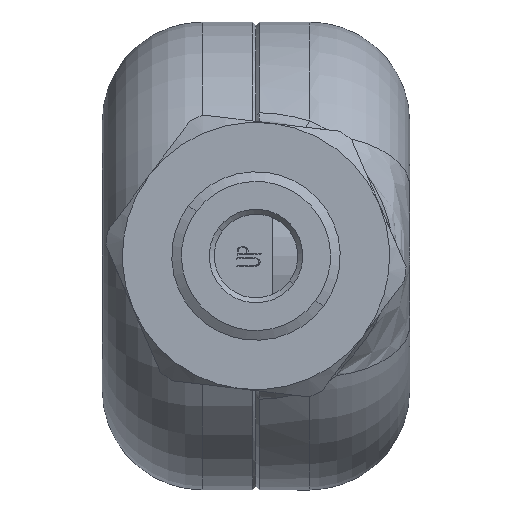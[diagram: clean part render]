
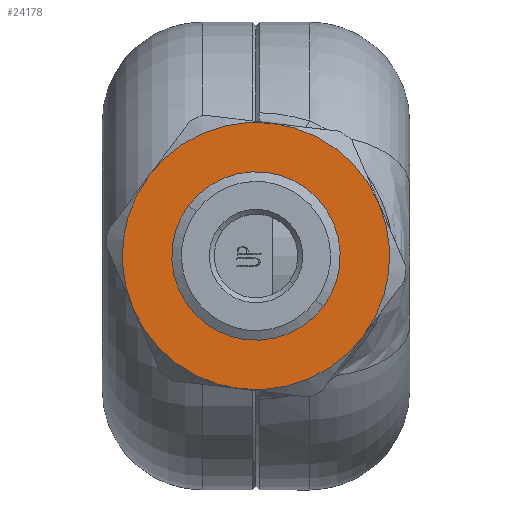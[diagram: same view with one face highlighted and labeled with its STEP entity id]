
A CAD part, front view. The second image highlights one B-rep face of the part: STEP entity #24178.
In plain terms, the highlighted planar face has unit normal (0, -1, 0).
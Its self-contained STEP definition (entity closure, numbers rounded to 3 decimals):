
#594 = AXIS2_PLACEMENT_3D ( 'NONE', #21130, #8941, #23932 ) ;
#1090 = DIRECTION ( 'NONE',  ( 0., -1., 0. ) ) ;
#1221 = DIRECTION ( 'NONE',  ( 0., 1., 0. ) ) ;
#1297 = ORIENTED_EDGE ( 'NONE', *, *, #38683, .T. ) ;
#2718 = DIRECTION ( 'NONE',  ( 0., 1., 0. ) ) ;
#2896 = CIRCLE ( 'NONE', #9921, 8. ) ;
#3176 = ORIENTED_EDGE ( 'NONE', *, *, #36868, .T. ) ;
#3190 = EDGE_CURVE ( 'NONE', #33217, #12029, #2896, .T. ) ;
#3834 = CARTESIAN_POINT ( 'NONE',  ( -16.45, -17.345, 42. ) ) ;
#4594 = EDGE_LOOP ( 'NONE', ( #36920, #24398, #33409, #1297, #24714, #10651 ) ) ;
#4896 = EDGE_CURVE ( 'NONE', #6019, #33217, #29945, .T. ) ;
#4927 = DIRECTION ( 'NONE',  ( 0., -1., 0. ) ) ;
#5756 = DIRECTION ( 'NONE',  ( 0., -1., 0. ) ) ;
#5987 = FACE_OUTER_BOUND ( 'NONE', #4594, .T. ) ;
#6019 = VERTEX_POINT ( 'NONE', #25096 ) ;
#7419 = CARTESIAN_POINT ( 'NONE',  ( -16.45, -17.345, 42. ) ) ;
#8941 = DIRECTION ( 'NONE',  ( 0., -1., 0. ) ) ;
#8952 = CIRCLE ( 'NONE', #15329, 8. ) ;
#8988 = CARTESIAN_POINT ( 'NONE',  ( -10.043, -17.345, 37.209 ) ) ;
#9132 = CARTESIAN_POINT ( 'NONE',  ( -16.45, -17.345, 42. ) ) ;
#9921 = AXIS2_PLACEMENT_3D ( 'NONE', #28665, #1090, #19873 ) ;
#10084 = CARTESIAN_POINT ( 'NONE',  ( -19.894, -17.345, 44.575 ) ) ;
#10651 = ORIENTED_EDGE ( 'NONE', *, *, #3190, .T. ) ;
#11791 = FACE_BOUND ( 'NONE', #28175, .T. ) ;
#12029 = VERTEX_POINT ( 'NONE', #13350 ) ;
#12840 = DIRECTION ( 'NONE',  ( 0.801, 0., -0.599 ) ) ;
#13350 = CARTESIAN_POINT ( 'NONE',  ( -9.098, -17.345, 45.153 ) ) ;
#14922 = DIRECTION ( 'NONE',  ( 0.801, 0., -0.599 ) ) ;
#15189 = PLANE ( 'NONE',  #36101 ) ;
#15252 = CARTESIAN_POINT ( 'NONE',  ( -16.45, -17.345, 42. ) ) ;
#15329 = AXIS2_PLACEMENT_3D ( 'NONE', #15252, #4927, #32505 ) ;
#16068 = AXIS2_PLACEMENT_3D ( 'NONE', #30105, #2718, #14922 ) ;
#16242 = DIRECTION ( 'NONE',  ( 0.801, 0., -0.599 ) ) ;
#18256 = AXIS2_PLACEMENT_3D ( 'NONE', #7419, #1221, #16242 ) ;
#18612 = AXIS2_PLACEMENT_3D ( 'NONE', #37830, #26709, #22586 ) ;
#19242 = CARTESIAN_POINT ( 'NONE',  ( -22.857, -17.345, 46.791 ) ) ;
#19873 = DIRECTION ( 'NONE',  ( 0.801, 0., -0.599 ) ) ;
#20962 = DIRECTION ( 'NONE',  ( 0., -1., 0. ) ) ;
#21033 = EDGE_CURVE ( 'NONE', #24843, #37086, #35502, .T. ) ;
#21039 = EDGE_CURVE ( 'NONE', #12029, #28716, #24003, .T. ) ;
#21130 = CARTESIAN_POINT ( 'NONE',  ( -16.45, -17.345, 42. ) ) ;
#21316 = DIRECTION ( 'NONE',  ( 0.801, 0., -0.599 ) ) ;
#21439 = CARTESIAN_POINT ( 'NONE',  ( -13.006, -17.345, 39.425 ) ) ;
#22586 = DIRECTION ( 'NONE',  ( 0.801, 0., -0.599 ) ) ;
#23932 = DIRECTION ( 'NONE',  ( 0.801, 0., -0.599 ) ) ;
#24003 = CIRCLE ( 'NONE', #34257, 8. ) ;
#24178 = ADVANCED_FACE ( 'NONE', ( #11791, #5987 ), #15189, .T. ) ;
#24303 = CIRCLE ( 'NONE', #16068, 4.3 ) ;
#24398 = ORIENTED_EDGE ( 'NONE', *, *, #27501, .T. ) ;
#24705 = AXIS2_PLACEMENT_3D ( 'NONE', #9132, #5756, #21316 ) ;
#24714 = ORIENTED_EDGE ( 'NONE', *, *, #4896, .T. ) ;
#24843 = VERTEX_POINT ( 'NONE', #10084 ) ;
#25096 = CARTESIAN_POINT ( 'NONE',  ( -17.396, -17.345, 34.056 ) ) ;
#26709 = DIRECTION ( 'NONE',  ( 0., -1., 0. ) ) ;
#27501 = EDGE_CURVE ( 'NONE', #28716, #29858, #8952, .T. ) ;
#27568 = CARTESIAN_POINT ( 'NONE',  ( -13.779, -17.345, 45.572 ) ) ;
#28175 = EDGE_LOOP ( 'NONE', ( #3176, #28965 ) ) ;
#28665 = CARTESIAN_POINT ( 'NONE',  ( -16.45, -17.345, 42. ) ) ;
#28716 = VERTEX_POINT ( 'NONE', #30824 ) ;
#28965 = ORIENTED_EDGE ( 'NONE', *, *, #21033, .T. ) ;
#29453 = CIRCLE ( 'NONE', #18612, 8. ) ;
#29858 = VERTEX_POINT ( 'NONE', #19242 ) ;
#29945 = CIRCLE ( 'NONE', #594, 8. ) ;
#30105 = CARTESIAN_POINT ( 'NONE',  ( -16.45, -17.345, 42. ) ) ;
#30824 = CARTESIAN_POINT ( 'NONE',  ( -15.504, -17.345, 49.944 ) ) ;
#32505 = DIRECTION ( 'NONE',  ( 0.801, 0., -0.599 ) ) ;
#33217 = VERTEX_POINT ( 'NONE', #8988 ) ;
#33409 = ORIENTED_EDGE ( 'NONE', *, *, #37883, .T. ) ;
#34229 = DIRECTION ( 'NONE',  ( 0., -1., 0. ) ) ;
#34257 = AXIS2_PLACEMENT_3D ( 'NONE', #3834, #34229, #12840 ) ;
#35502 = CIRCLE ( 'NONE', #18256, 4.3 ) ;
#36101 = AXIS2_PLACEMENT_3D ( 'NONE', #27568, #20962, #38997 ) ;
#36239 = CIRCLE ( 'NONE', #24705, 8. ) ;
#36868 = EDGE_CURVE ( 'NONE', #37086, #24843, #24303, .T. ) ;
#36920 = ORIENTED_EDGE ( 'NONE', *, *, #21039, .T. ) ;
#36943 = CARTESIAN_POINT ( 'NONE',  ( -23.803, -17.345, 38.847 ) ) ;
#37086 = VERTEX_POINT ( 'NONE', #21439 ) ;
#37830 = CARTESIAN_POINT ( 'NONE',  ( -16.45, -17.345, 42. ) ) ;
#37883 = EDGE_CURVE ( 'NONE', #29858, #38716, #29453, .T. ) ;
#38683 = EDGE_CURVE ( 'NONE', #38716, #6019, #36239, .T. ) ;
#38716 = VERTEX_POINT ( 'NONE', #36943 ) ;
#38997 = DIRECTION ( 'NONE',  ( 0.801, 0., -0.599 ) ) ;
